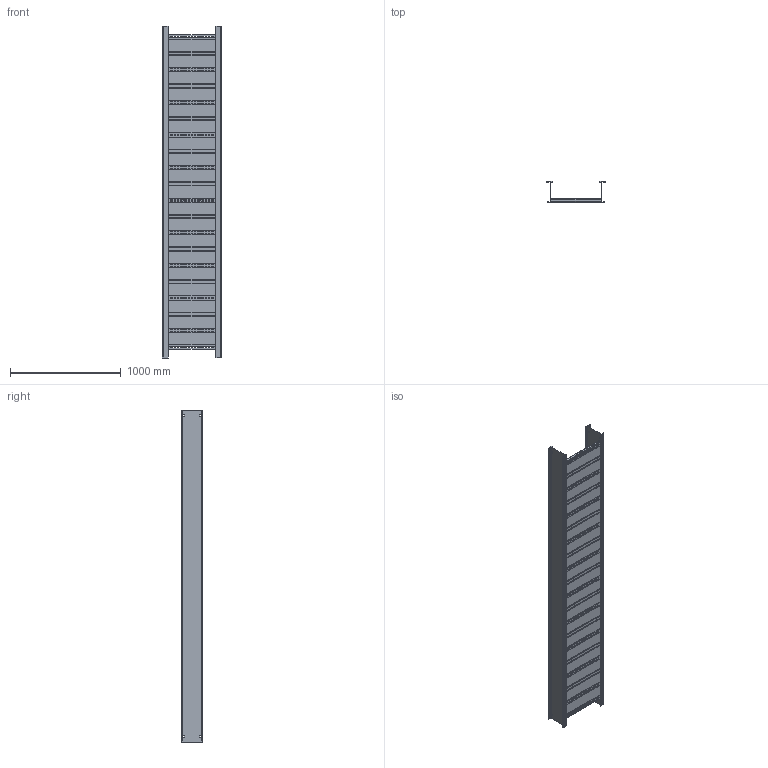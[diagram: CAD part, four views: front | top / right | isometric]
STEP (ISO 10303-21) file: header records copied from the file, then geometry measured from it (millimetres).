
FILE_DESCRIPTION((''),'2;1');
FILE_NAME('AH3718V-3_ASM','2010-02-11T',('erouzier'),(''),'PRO/ENGINEER BY PARAMETRIC TECHNOLOGY CORPORATION, 2008510','PRO/ENGINEER BY PARAMETRIC TECHNOLOGY CORPORATION, 2008510','');
FILE_SCHEMA(('CONFIG_CONTROL_DESIGN'));
Length unit declared in the file: inch
Products named in the file (23): CDS002158-015_AF3; CDS002158-015_AF4; CDS002159L18-P_AF0; CDS002159L18-P_AF1; CDS002159L18-P_AF2; CDS002159L18-P_AF3; CDS002159L18-P_AF4; CDS002159L18-P_AF5; CDS002159L18-P_AF6; CDS002159L18-P_AF7; CDS002159L18-P_AF8; CDS002159L18-P_AF9; CDS002159L18-P_AF10; CDS002159L18-P_AF11; CDS002159L18-P_AF12; CDS002159L18-P_AF13; CDS002159L18-P_AF14; CDS002159L18-P_AF15; CDS002159L18-P_AF16; CDS002159L18-P_AF17; CDS002159L18-P_AF18; CDS002159L18-P_AF19; AH3718V-3_ASM
Assembly tree (22 placements, depth 2):
  AH3718V-3_ASM
    CDS002158-015_AF3
    CDS002158-015_AF4
    CDS002159L18-P_AF0
    CDS002159L18-P_AF1
    CDS002159L18-P_AF2
    CDS002159L18-P_AF3
    CDS002159L18-P_AF4
    CDS002159L18-P_AF5
    CDS002159L18-P_AF6
    CDS002159L18-P_AF7
    CDS002159L18-P_AF8
    CDS002159L18-P_AF9
    CDS002159L18-P_AF10
    CDS002159L18-P_AF11
    CDS002159L18-P_AF12
    CDS002159L18-P_AF13
    CDS002159L18-P_AF14
    CDS002159L18-P_AF15
    CDS002159L18-P_AF16
    CDS002159L18-P_AF17
    CDS002159L18-P_AF18
    CDS002159L18-P_AF19
Bounding box: 534.16 x 186.44 x 3000 mm (x, y, z)
Volume: 7408669.9 mm3; surface area: 6687736.3 mm2
Topology: 22 solids, 23 shells, 3243 faces, 9598 edges, 6400 vertices
Faces by surface type: plane 1739, cylinder 1504
Entity records: 110886 total; most frequent: CARTESIAN_POINT 19286, ORIENTED_EDGE 19192, DIRECTION 19182, EDGE_CURVE 9598, VECTOR 6590, LINE 6590, VERTEX_POINT 6400, AXIS2_PLACEMENT_3D 6296
